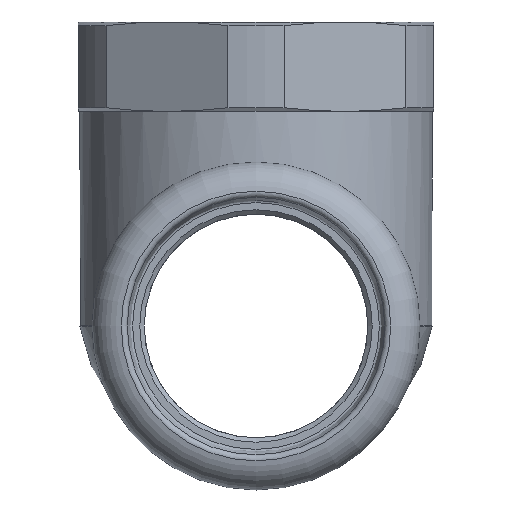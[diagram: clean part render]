
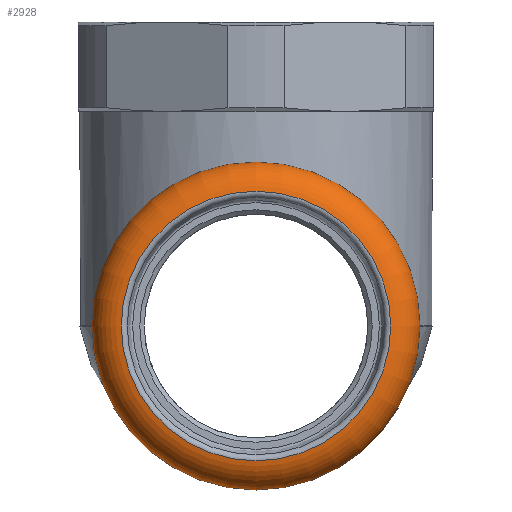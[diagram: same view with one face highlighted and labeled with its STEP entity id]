
A CAD part, left-side view. The second image highlights one B-rep face of the part: STEP entity #2928.
In plain terms, the highlighted toroidal (fillet/blend) face has major radius 14.611 mm and minor radius 3.742 mm.
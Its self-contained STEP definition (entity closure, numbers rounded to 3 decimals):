
#680=FACE_OUTER_BOUND('',#861,.T.);
#861=EDGE_LOOP('',(#1979,#1980,#1981,#1982,#1983,#1984));
#1064=CIRCLE('',#3142,15.074);
#1065=CIRCLE('',#3143,15.074);
#1066=CIRCLE('',#3144,3.742);
#1067=CIRCLE('',#3145,15.7);
#1068=CIRCLE('',#3146,15.7);
#1193=VERTEX_POINT('',#3990);
#1194=VERTEX_POINT('',#3991);
#1195=VERTEX_POINT('',#3994);
#1196=VERTEX_POINT('',#3996);
#1500=EDGE_CURVE('',#1193,#1194,#1064,.T.);
#1501=EDGE_CURVE('',#1194,#1193,#1065,.T.);
#1502=EDGE_CURVE('',#1194,#1195,#1066,.T.);
#1503=EDGE_CURVE('',#1195,#1196,#1067,.T.);
#1504=EDGE_CURVE('',#1196,#1195,#1068,.T.);
#1979=ORIENTED_EDGE('',*,*,#1500,.F.);
#1980=ORIENTED_EDGE('',*,*,#1501,.F.);
#1981=ORIENTED_EDGE('',*,*,#1502,.T.);
#1982=ORIENTED_EDGE('',*,*,#1503,.T.);
#1983=ORIENTED_EDGE('',*,*,#1504,.T.);
#1984=ORIENTED_EDGE('',*,*,#1502,.F.);
#2911=TOROIDAL_SURFACE('',#3141,14.611,3.742);
#2928=ADVANCED_FACE('',(#680),#2911,.T.);
#3141=AXIS2_PLACEMENT_3D('',#3989,#3390,#3391);
#3142=AXIS2_PLACEMENT_3D('',#3992,#3392,#3393);
#3143=AXIS2_PLACEMENT_3D('',#3993,#3394,#3395);
#3144=AXIS2_PLACEMENT_3D('',#3995,#3396,#3397);
#3145=AXIS2_PLACEMENT_3D('',#3997,#3398,#3399);
#3146=AXIS2_PLACEMENT_3D('',#3998,#3400,#3401);
#3390=DIRECTION('center_axis',(-1.,0.,0.));
#3391=DIRECTION('ref_axis',(0.,0.,1.));
#3392=DIRECTION('center_axis',(-1.,0.,0.));
#3393=DIRECTION('ref_axis',(0.,0.,1.));
#3394=DIRECTION('center_axis',(-1.,0.,0.));
#3395=DIRECTION('ref_axis',(0.,0.,1.));
#3396=DIRECTION('center_axis',(0.,-1.,0.));
#3397=DIRECTION('ref_axis',(0.,0.,-1.));
#3398=DIRECTION('center_axis',(-1.,0.,0.));
#3399=DIRECTION('ref_axis',(0.,0.,1.));
#3400=DIRECTION('center_axis',(-1.,0.,0.));
#3401=DIRECTION('ref_axis',(0.,0.,1.));
#3989=CARTESIAN_POINT('Origin',(-40.282,0.,0.));
#3990=CARTESIAN_POINT('',(-43.995,0.,15.074));
#3991=CARTESIAN_POINT('',(-43.995,0.,-15.074));
#3992=CARTESIAN_POINT('Origin',(-43.995,0.,0.));
#3993=CARTESIAN_POINT('Origin',(-43.995,0.,0.));
#3994=CARTESIAN_POINT('',(-36.703,0.,-15.7));
#3995=CARTESIAN_POINT('Origin',(-40.282,0.,
-14.611));
#3996=CARTESIAN_POINT('',(-36.703,0.,15.7));
#3997=CARTESIAN_POINT('Origin',(-36.703,0.,
0.));
#3998=CARTESIAN_POINT('Origin',(-36.703,0.,
0.));
